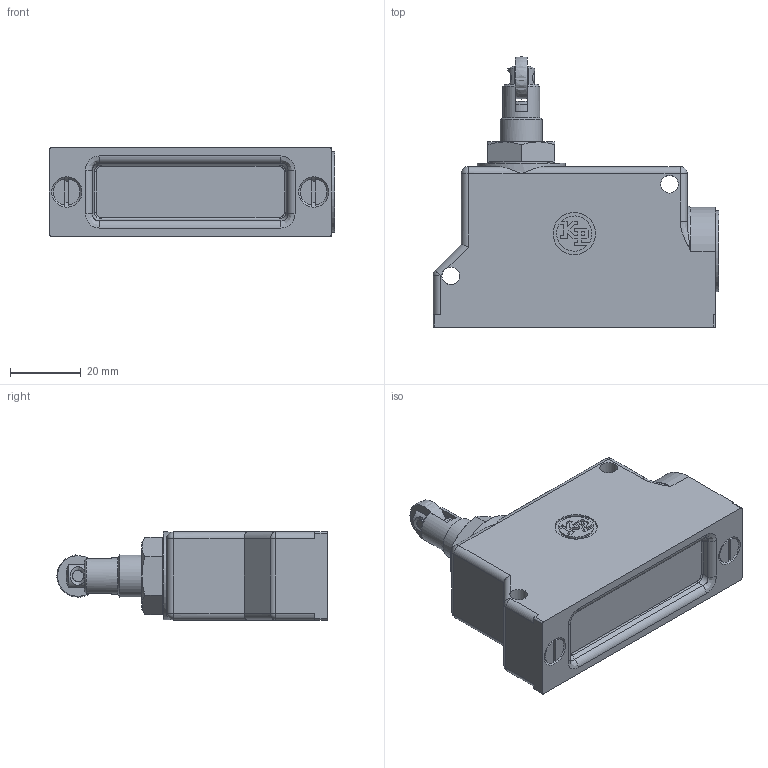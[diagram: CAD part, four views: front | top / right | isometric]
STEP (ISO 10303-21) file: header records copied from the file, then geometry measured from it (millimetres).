
FILE_DESCRIPTION(('Microrutor Basico Protegido Fixacao Lateral Atuador Botao c/ Roldana'),'2;1');
FILE_NAME('E:\WorkFolder\Bibl\3DWeb\kp_mc_mc5s2_step.stp','2013-01-11T11:14:45',('DIE'),('KAP'),'Autodesk Inventor 2011','Autodesk Inventor 2011','Direitos reservados. Proibido reproducao, cedencia ou revelacao de conteudo a terceiros, salvo com autorizacao.');
FILE_SCHEMA(('AUTOMOTIVE_DESIGN { 1 0 10303 214 1 1 1 1 }'));
Length unit declared in the file: millimetre
Products named in the file (3): MC5S2_3D; MC_Caixa_5; MC_Atuador_S2
Assembly tree (2 placements, depth 2):
  MC5S2_3D
    MC_Caixa_5
    MC_Atuador_S2
Bounding box: 81 x 76.63 x 25 mm (x, y, z)
Volume: 79939.4 mm3; surface area: 17815.5 mm2
Topology: 2 solids, 10 shells, 290 faces, 696 edges, 438 vertices
Faces by surface type: plane 152, cylinder 85, bspline 26, cone 16, sphere 9, torus 2
Full cylindrical faces by diameter (mm): 2.459 x1, 3 x4, 3.242 x2, 4 x2, 4.805 x2, 5 x4, 6 x1, 6.2 x1, 7.6 x1, 7.937 x1, 10.5 x1, 12 x2, 18.5 x2, 23 x1, 25 x1
Entity records: 9707 total; most frequent: CARTESIAN_POINT 3009, DIRECTION 1304, ORIENTED_EDGE 1262, EDGE_CURVE 631, AXIS2_PLACEMENT_3D 478, VERTEX_POINT 418, EDGE_LOOP 361, VECTOR 348
